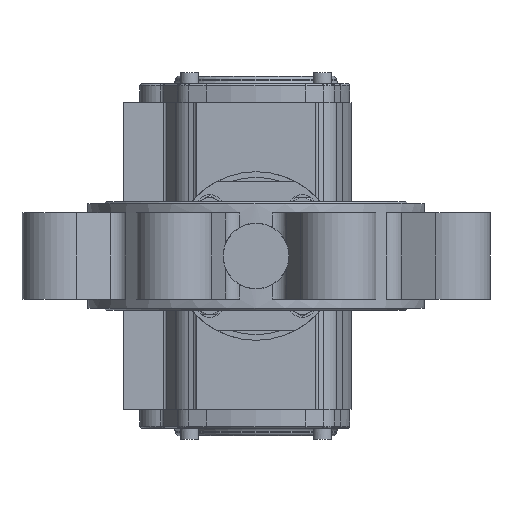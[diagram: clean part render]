
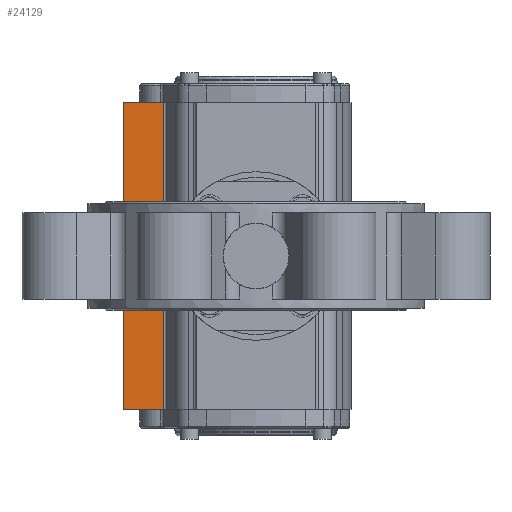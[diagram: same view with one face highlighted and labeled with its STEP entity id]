
A CAD part, front view. The second image highlights one B-rep face of the part: STEP entity #24129.
In plain terms, the highlighted planar face has unit normal (0, -1, 0).
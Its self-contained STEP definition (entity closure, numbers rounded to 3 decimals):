
#331 = EDGE_CURVE ( 'NONE', #10960, #20070, #10403, .T. ) ;
#1557 = LINE ( 'NONE', #18273, #5316 ) ;
#1686 = LINE ( 'NONE', #10037, #4507 ) ;
#2976 = ORIENTED_EDGE ( 'NONE', *, *, #331, .T. ) ;
#3283 = CARTESIAN_POINT ( 'NONE',  ( 81.9, -22., 71. ) ) ;
#3512 = EDGE_CURVE ( 'NONE', #13980, #10960, #15911, .T. ) ;
#4507 = VECTOR ( 'NONE', #10718, 1000. ) ;
#5316 = VECTOR ( 'NONE', #26612, 1000. ) ;
#5329 = FACE_OUTER_BOUND ( 'NONE', #14381, .T. ) ;
#6180 = CARTESIAN_POINT ( 'NONE',  ( -81.9, -22., 71. ) ) ;
#6571 = EDGE_CURVE ( 'NONE', #20070, #25431, #1686, .T. ) ;
#8295 = ORIENTED_EDGE ( 'NONE', *, *, #6571, .T. ) ;
#8623 = DIRECTION ( 'NONE',  ( 0., 0., -1. ) ) ;
#10037 = CARTESIAN_POINT ( 'NONE',  ( 81.9, -22., 49.462 ) ) ;
#10403 = LINE ( 'NONE', #6180, #15521 ) ;
#10718 = DIRECTION ( 'NONE',  ( 1., 0., 0. ) ) ;
#10960 = VERTEX_POINT ( 'NONE', #18191 ) ;
#11634 = DIRECTION ( 'NONE',  ( 0., 1., 0. ) ) ;
#12500 = ORIENTED_EDGE ( 'NONE', *, *, #17460, .F. ) ;
#12824 = AXIS2_PLACEMENT_3D ( 'NONE', #3283, #11634, #17931 ) ;
#13009 = CARTESIAN_POINT ( 'NONE',  ( 81.9, -22., 49.462 ) ) ;
#13729 = DIRECTION ( 'NONE',  ( -1., 0., 0. ) ) ;
#13980 = VERTEX_POINT ( 'NONE', #15629 ) ;
#14381 = EDGE_LOOP ( 'NONE', ( #2976, #8295, #12500, #15470 ) ) ;
#15470 = ORIENTED_EDGE ( 'NONE', *, *, #3512, .T. ) ;
#15521 = VECTOR ( 'NONE', #8623, 1000. ) ;
#15629 = CARTESIAN_POINT ( 'NONE',  ( 81.9, -22., 71. ) ) ;
#15911 = LINE ( 'NONE', #26167, #18343 ) ;
#17460 = EDGE_CURVE ( 'NONE', #13980, #25431, #1557, .T. ) ;
#17931 = DIRECTION ( 'NONE',  ( 0., 0., 1. ) ) ;
#18074 = PLANE ( 'NONE',  #12824 ) ;
#18191 = CARTESIAN_POINT ( 'NONE',  ( -81.9, -22., 71. ) ) ;
#18273 = CARTESIAN_POINT ( 'NONE',  ( 81.9, -22., 71. ) ) ;
#18343 = VECTOR ( 'NONE', #13729, 1000. ) ;
#20070 = VERTEX_POINT ( 'NONE', #20426 ) ;
#20426 = CARTESIAN_POINT ( 'NONE',  ( -81.9, -22., 49.462 ) ) ;
#24129 = ADVANCED_FACE ( 'NONE', ( #5329 ), #18074, .F. ) ;
#25431 = VERTEX_POINT ( 'NONE', #13009 ) ;
#26167 = CARTESIAN_POINT ( 'NONE',  ( 81.9, -22., 71. ) ) ;
#26612 = DIRECTION ( 'NONE',  ( 0., 0., -1. ) ) ;
